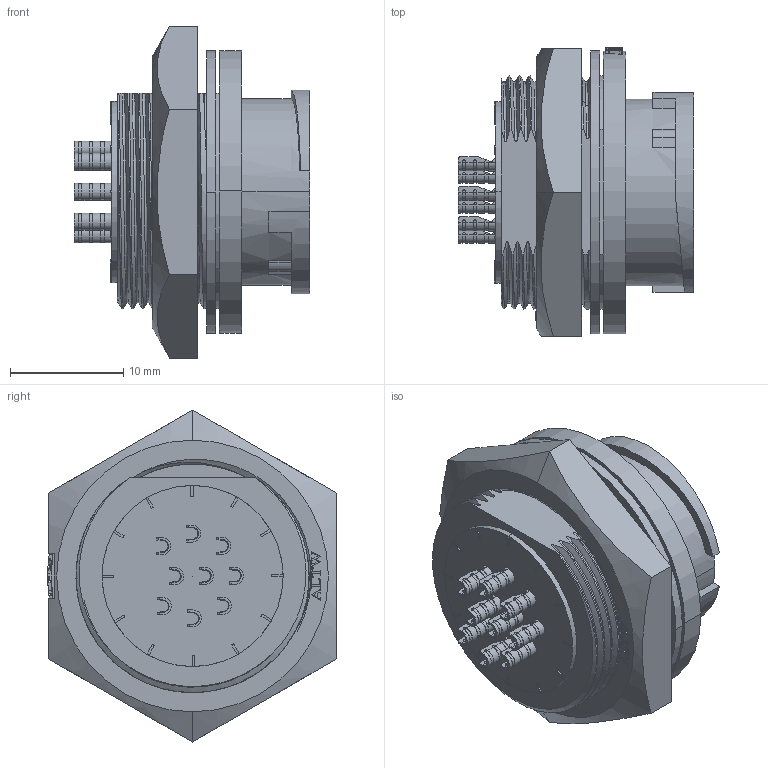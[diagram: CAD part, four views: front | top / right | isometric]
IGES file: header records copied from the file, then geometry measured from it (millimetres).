
Start section:  PTC IGES file: ACD-09RMMS-LC7001.igs
Global section: file name: ACD-09RMMS-LC7001.igs; native system: Creo Parametric by Parametric Technology Corporation; preprocessor: 2013050; author: KS7307; organization: Unknown; date: 20160622.152256; units: millimetre
Bounding box: 20.8 x 25.5 x 29.33 mm (x, y, z)
Volume: 4846.9 mm3; surface area: 4616.2 mm2
Topology: 1 solids, 2 shells, 1517 faces, 4580 edges, 2998 vertices
Faces by surface type: bspline 787, revolution 602, extrusion 128
